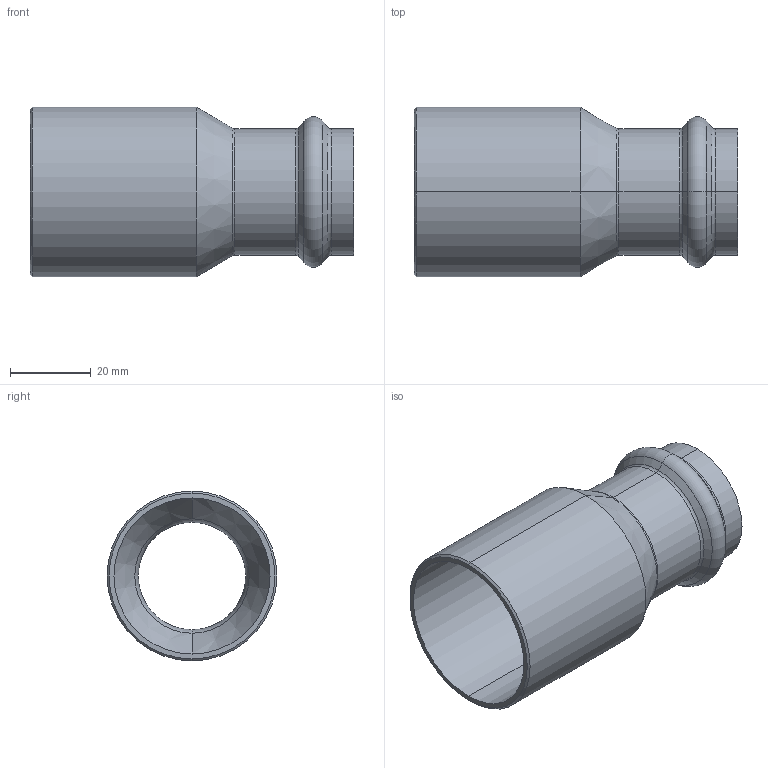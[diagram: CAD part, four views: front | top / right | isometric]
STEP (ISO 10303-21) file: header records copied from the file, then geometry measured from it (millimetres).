
FILE_DESCRIPTION (( 'STEP AP203' ), '1' );
FILE_NAME ('SP5243 42-28.STEP', '2017-04-24T09:11:39', ( '' ), ( '' ), 'SwSTEP 2.0', 'SolidWorks 2016', '' );
FILE_SCHEMA (( 'CONFIG_CONTROL_DESIGN' ));
Length unit declared in the file: millimetre
Products named in the file (1): SP5243 42-28
Bounding box: 80 x 42 x 42 mm (x, y, z)
Volume: 15633.7 mm3; surface area: 19222.3 mm2
Topology: 1 solids, 1 shells, 48 faces, 96 edges, 50 vertices
Faces by surface type: torus 18, cone 16, cylinder 12, plane 2
Entity records: 1313 total; most frequent: DIRECTION 262, CARTESIAN_POINT 195, ORIENTED_EDGE 192, AXIS2_PLACEMENT_3D 117, EDGE_CURVE 96, CIRCLE 68, EDGE_LOOP 50, VERTEX_POINT 50
